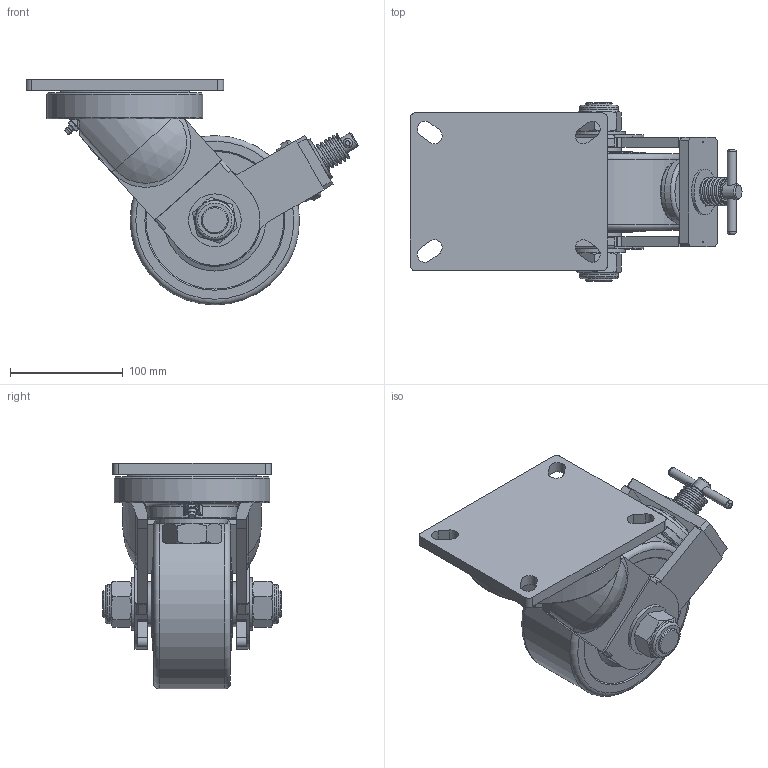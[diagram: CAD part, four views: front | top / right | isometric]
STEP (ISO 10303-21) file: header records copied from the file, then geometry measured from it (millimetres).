
FILE_DESCRIPTION((''),'2;1');
FILE_NAME('C:\Documents and Settings\Administrator\바탕 화면\뜸부기\신제품 진행_GL_GLH_GXT\GXT-150BSF MCD\GXT-150-BSF-MCD.stp','2011-06-23T09:19:19',('Administrator'),(''),'Autodesk Inventor 2009','Autodesk Inventor 2009','');
FILE_SCHEMA(('AUTOMOTIVE_DESIGN { 1 0 10303 214 1 1 1 1 }'));
Length unit declared in the file: millimetre
Products named in the file (1): GXT-150-BSF-MCD
Bounding box: 294.08 x 158 x 200 mm (x, y, z)
Volume: 2235612.5 mm3; surface area: 319791.4 mm2
Topology: 16 solids, 17 shells, 517 faces, 1227 edges, 780 vertices
Faces by surface type: plane 243, cylinder 145, bspline 48, cone 46, torus 31, sphere 4
Full cylindrical faces by diameter (mm): 1 x6, 5 x1, 6 x1, 8 x2, 8.2 x1, 11.7 x1, 12.2 x2, 13 x1, 14 x1, 16.2 x1, 18.2 x1, 20 x1, 21 x2, 22 x2, 23.5 x1, 24 x6, 24.3 x2, 24.5 x2, 26 x2, 27 x1, 30 x6, 30.5 x1, 32 x1, 34.4 x2, 35 x3, 40 x3, 40.667 x4, 42 x1, 46.7 x2, 48.5 x1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
Entity records: 18745 total; most frequent: CARTESIAN_POINT 7708, DIRECTION 2301, ORIENTED_EDGE 2018, EDGE_CURVE 1009, AXIS2_PLACEMENT_3D 924, EDGE_LOOP 776, VERTEX_POINT 732, FACE_OUTER_BOUND 517
